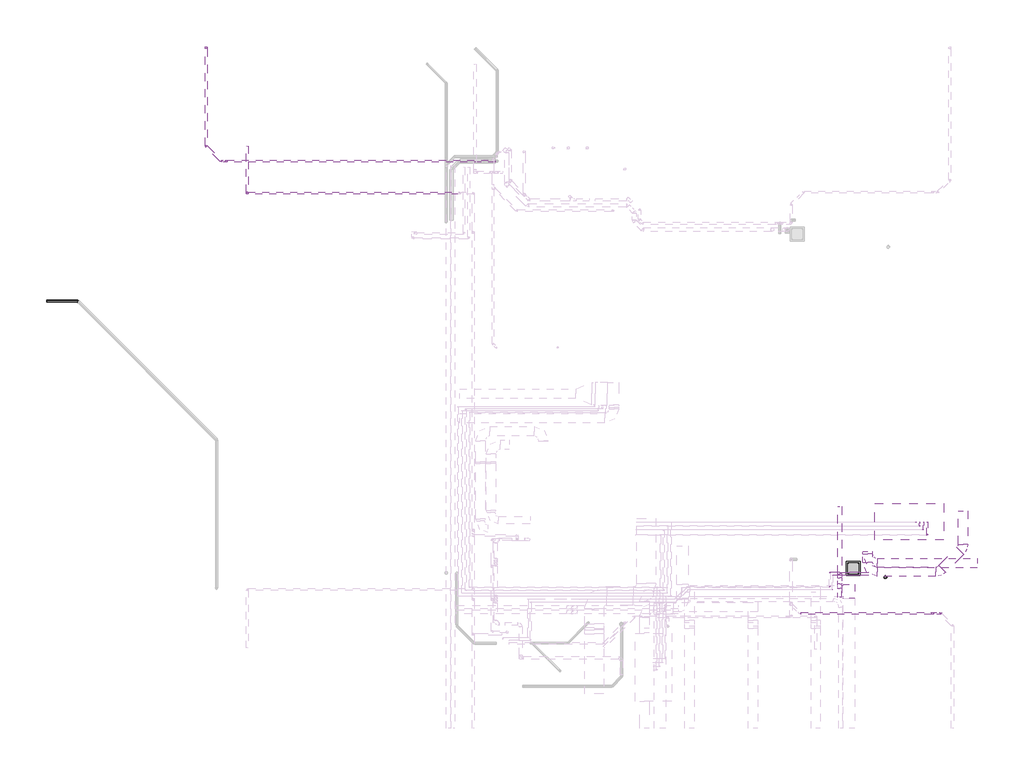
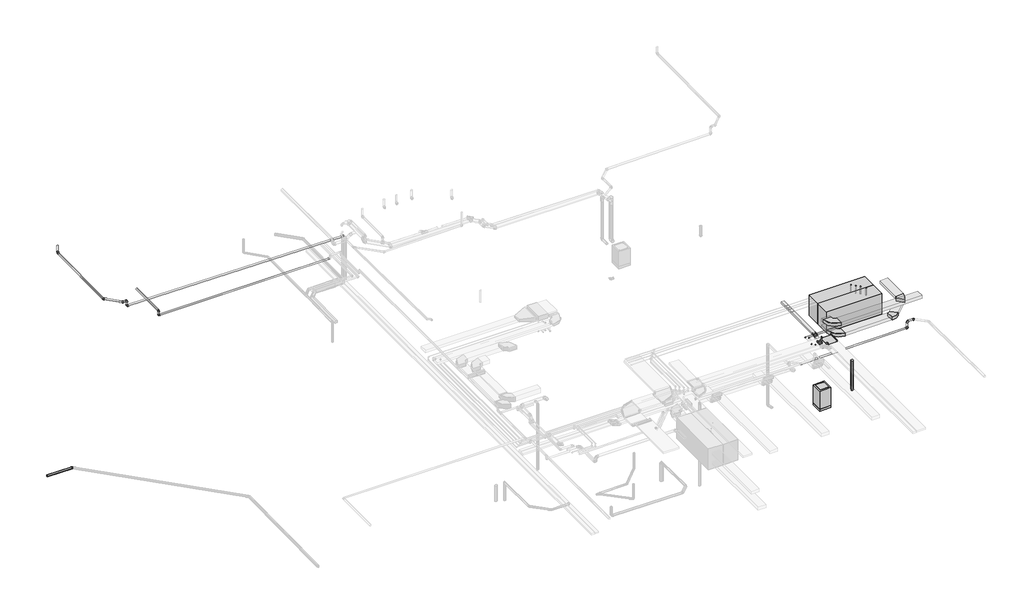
# One storey, part 7 of 10: 24 pipe fittings, 23 pipe segments, 6 duct segments, 4 duct fittings, 3 cable carrier fittings, 3 cable carrier segments, 2 proxies.
"""IFC4 building model written with IfcOpenShell, lengths in millimetres."""

from ifc_helpers import new_model, si_unit, point, frame, frame_2d, origin, place, context, project, spatial, polyline, circle_curve, trimmed, segment, composite_curve, outline, extrude, transform, mapped, element, save
from ifc_brep_helpers import plane_surface, cylinder_surface, advanced_brep
from components import proxy_50x50_437b038c, cl01_be410f6c, el_radio_300_mm_80008d8d, m_codo_vertical_exterior_de_canal_el_8fa2d767, m_codo_vertical_interior_de_canal_el_7eac9073, m_codo_rectangular_radio_apt_1_w_8ec2a39b, m_codo_rectangular_radio_apt_1_w_ead374a0, pipe_fitting_b994c117, pipe_fitting_0b7fd5a4, pipe_fitting_aab77541, pipe_fitting_0af9fee6, pipe_fitting_39727cd3, pipe_fitting_371413ad, pipe_fitting_87aeffad, pipe_fitting_c06ac706, pipe_fitting_9d402f5c, pipe_fitting_0698fb7b, pipe_fitting_d33bdcc6

model = new_model("IFC4")

# Units and contexts
model_context = context("Model", 3, world=origin())
ifc_project = project(units=[si_unit("LENGTHUNIT", "METRE", prefix="MILLI")], contexts=[model_context])

# Site, building, storey
site = spatial("IfcSite", under=ifc_project)
building = spatial("IfcBuilding", under=site)
storey = spatial("IfcBuildingStorey", under=building, Name="Nivell 00 P00_PB", Elevation=6330.0)

# Proxies
placement = place(None, origin())
proxy_50x50_shape = proxy_50x50_437b038c(model_context)
element("IfcBuildingElementProxy", 1, Name="ARC_MDL_ME_Arqueta : 50x50", ObjectType="ARC_MDL_ME_Arqueta : 50x50", at=placement, inside=storey, context=model_context, shape_type="MappedRepresentation", body=[
    mapped(proxy_50x50_shape, transform((25487.6337384, -13511.3935733, 6430.0), x_axis=(0.9999999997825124, -2.085605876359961e-05, 0.0), y_axis=(2.085605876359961e-05, 0.9999999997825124, 0.0), z_axis=(0.0, 0.0, 1.0))),
])
cl01_shape = cl01_be410f6c(model_context)
element("IfcBuildingElementProxy", 2, Name="ARC_MDL_ME_Climatitzador 2P Mx1 r22 : CL01", ObjectType="ARC_MDL_ME_Climatitzador 2P Mx1 r22 : CL01", at=placement, inside=storey, context=model_context, shape_type="MappedRepresentation", body=[
    mapped(cl01_shape, transform((28449.602221, -10573.3445368, 8830.0), x_axis=(0.9999999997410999, -2.2755226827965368e-05, 0.0), y_axis=(2.2755226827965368e-05, 0.9999999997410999, 0.0), z_axis=(0.0, 0.0, 1.0))),
])

# Cable carrier fittings
el_radio_300_mm_shape = el_radio_300_mm_80008d8d(model_context)
element("IfcCableCarrierFitting", 3, ObjectType="M_Te horizontal de canal : EL_Radio 300 mm", at=placement, inside=storey, context=model_context, shape_type="MappedRepresentation", body=[
    mapped(el_radio_300_mm_shape, transform((25270.9823979, -14725.0486096, 10510.0), x_axis=(0.0, -1.0, 0.0), y_axis=(1.0, 0.0, 0.0), z_axis=(0.0, 0.0, 1.0))),
])
m_codo_vertical_exterior_de_canal_el_shape = m_codo_vertical_exterior_de_canal_el_8fa2d767(model_context)
element("IfcCableCarrierFitting", 4, ObjectType="M_Codo vertical exterior de canal : EL", at=placement, inside=storey, context=model_context, shape_type="MappedRepresentation", body=[
    mapped(m_codo_vertical_exterior_de_canal_el_shape, transform((24788.2391522, -13918.9475407, 10510.0), x_axis=(0.0, -1.0, 0.0), y_axis=(0.0, 0.0, -1.0), z_axis=(1.0, 0.0, 0.0))),
])
m_codo_vertical_interior_de_canal_el_shape = m_codo_vertical_interior_de_canal_el_7eac9073(model_context)
element("IfcCableCarrierFitting", 5, ObjectType="M_Codo vertical interior de canal : EL", at=placement, inside=storey, context=model_context, shape_type="MappedRepresentation", body=[
    mapped(m_codo_vertical_interior_de_canal_el_shape, transform((24788.2391522, -14446.1836515, 10291.6116524), x_axis=(0.0, -0.9238795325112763, -0.38268343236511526), y_axis=(0.0, -0.38268343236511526, 0.9238795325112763), z_axis=(-1.0, 0.0, 0.0))),
])

# Cable carrier segments
element("IfcCableCarrierSegment", 6, ObjectType="EL", at=placement, inside=storey, context=model_context, shape_type="SweptSolid", body=[
    extrude(outline(polyline([(24688.2391522, -14570.9117433), (24888.2391522, -14570.9117433), (24888.2391522, -15048.963472), (24688.2391522, -15048.963472), (24688.2391522, -14570.9117433)])), frame((0.0, 0.0, 10241.6116524), z_axis=(0.0, 0.0, 1.0), x_axis=(1.0, 0.0, 0.0)), (0.0, 0.0, 1.0), 100.0),
])
element("IfcCableCarrierSegment", 7, ObjectType="EL", at=placement, inside=storey, context=model_context, shape_type="SweptSolid", body=[
    extrude(outline(polyline([(24688.2391522, -10248.963472), (24888.2391522, -10248.963472), (24888.2391522, -13794.2194489), (24688.2391522, -13794.2194489), (24688.2391522, -10248.963472)])), frame((0.0, 0.0, 10460.0), z_axis=(0.0, 0.0, 1.0), x_axis=(1.0, 0.0, 0.0)), (0.0, 0.0, 1.0), 100.0),
])
element("IfcCableCarrierSegment", 8, ObjectType="EL", at=placement, inside=storey, context=model_context, shape_type="SweptSolid", body=[
    extrude(outline(polyline([(0.0, -200.0), (0.0, 0.0), (321.2200703, 0.0), (321.2200703, -200.0), (0.0, -200.0)])), frame((24888.2391522, -14015.0471003, 10416.0746491), z_axis=(0.0, -0.38268343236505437, 0.9238795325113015), x_axis=(0.0, -0.9238795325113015, -0.38268343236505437)), (0.0, 0.0, 1.0), 100.0),
])

# Duct fittings
m_codo_rectangular_radio_apt_1_w_shape = m_codo_rectangular_radio_apt_1_w_8ec2a39b(model_context)
element("IfcDuctFitting", 9, ObjectType="M_Codo rectangular - Radio : APT_1 W", at=placement, inside=storey, context=model_context, shape_type="MappedRepresentation", body=[
    mapped(m_codo_rectangular_radio_apt_1_w_shape, transform((26249.5864779, -13688.8175244, 9830.0), x_axis=(0.0, -1.0, 0.0), y_axis=(1.0, 0.0, 0.0), z_axis=(0.0, 0.0, 1.0))),
])
m_codo_rectangular_radio_apt_1_w_2_shape = m_codo_rectangular_radio_apt_1_w_ead374a0(model_context)
element("IfcDuctFitting", 10, ObjectType="M_Codo rectangular - Radio : APT_1 W", at=placement, inside=storey, context=model_context, shape_type="MappedRepresentation", body=[
    mapped(m_codo_rectangular_radio_apt_1_w_2_shape, transform((30049.5864779, -13688.8175244, 9830.0), x_axis=(1.0, 0.0, 0.0), y_axis=(0.0, 1.0, 0.0), z_axis=(0.0, 0.0, 1.0))),
])
element("IfcDuctFitting", 11, ObjectType="M_Codo rectangular - Radio : APT_1 W", at=placement, inside=storey, context=model_context, shape_type="MappedRepresentation", body=[
    mapped(m_codo_rectangular_radio_apt_1_w_2_shape, transform((31292.4965295, -12445.9074729, 9830.0), x_axis=(0.707106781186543, 0.7071067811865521, 0.0), y_axis=(-0.7071067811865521, 0.707106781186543, 0.0), z_axis=(0.0, 0.0, 1.0))),
])
element("IfcDuctFitting", 12, ObjectType="M_Codo rectangular - Radio : EXT_1 W", at=placement, inside=storey, context=model_context, shape_type="MappedRepresentation", body=[
    mapped(m_codo_rectangular_radio_apt_1_w_shape, transform((26249.5864779, -13242.9667052, 10280.0), x_axis=(0.0, -1.0, 0.0), y_axis=(1.0, 0.0, 0.0), z_axis=(0.0, 0.0, 1.0))),
])

# Duct segments
element("IfcDuctSegment", 13, ObjectType="EXT_Fibra de vidre rígida", at=placement, inside=storey, context=model_context, shape_type="SweptSolid", body=[
    extrude(outline(polyline([(32049.5864779, -12992.9667052), (32049.5864779, -13492.9667052), (26749.5864779, -13492.9667052), (26749.5864779, -12992.9667052), (32049.5864779, -12992.9667052)])), frame((0.0, 0.0, 10180.0), z_axis=(0.0, 0.0, 1.0), x_axis=(1.0, 0.0, 0.0)), (0.0, 0.0, 1.0), 200.0),
])
element("IfcDuctSegment", 14, ObjectType="EXT_Fibra de vidre rígida", at=placement, inside=storey, context=model_context, shape_type="SweptSolid", body=[
    extrude(outline(polyline([(26499.5864779, -12742.9667052), (25999.5864779, -12742.9667052), (25999.5864779, -12622.9667052), (26499.5864779, -12622.9667052), (26499.5864779, -12742.9667052)])), frame((0.0, 0.0, 10180.0), z_axis=(0.0, 0.0, 1.0), x_axis=(1.0, 0.0, 0.0)), (0.0, 0.0, 1.0), 200.0),
])
element("IfcDuctSegment", 15, ObjectType="APT_Fibra de vidre rígida", at=placement, inside=storey, context=model_context, shape_type="SweptSolid", body=[
    extrude(outline(polyline([(30969.2732248, -12415.577387), (31322.8266154, -12769.1307776), (30372.8097826, -13719.1476103), (30019.256392, -13365.5942197), (30969.2732248, -12415.577387)])), frame((0.0, 0.0, 9730.0), z_axis=(0.0, 0.0, 1.0), x_axis=(1.0, 0.0, 0.0)), (0.0, 0.0, 1.0), 200.0),
])
element("IfcDuctSegment", 16, ObjectType="APT_Fibra de vidre rígida", at=placement, inside=storey, context=model_context, shape_type="SweptSolid", body=[
    extrude(outline(polyline([(26749.5864779, -13938.8175244), (26749.5864779, -13438.8175244), (29842.4796967, -13438.8175244), (29842.4796967, -13938.8175244), (26749.5864779, -13938.8175244)])), frame((0.0, 0.0, 9730.0), z_axis=(0.0, 0.0, 1.0), x_axis=(1.0, 0.0, 0.0)), (0.0, 0.0, 1.0), 200.0),
])
element("IfcDuctSegment", 17, ObjectType="APT_Fibra de vidre rígida", at=placement, inside=storey, context=model_context, shape_type="SweptSolid", body=[
    extrude(outline(polyline([(31042.4965295, -10469.19569), (31542.4965295, -10469.19569), (31542.4965295, -12238.8006917), (31042.4965295, -12238.8006917), (31042.4965295, -10469.19569)])), frame((0.0, 0.0, 9730.0), z_axis=(0.0, 0.0, 1.0), x_axis=(1.0, 0.0, 0.0)), (0.0, 0.0, 1.0), 200.0),
])
element("IfcDuctSegment", 18, ObjectType="APT_Fibra de vidre rígida", at=placement, inside=storey, context=model_context, shape_type="SweptSolid", body=[
    extrude(outline(polyline([(26499.5864779, -13188.8175244), (25999.5864779, -13188.8175244), (25999.5864779, -12622.9667052), (26499.5864779, -12622.9667052), (26499.5864779, -13188.8175244)])), frame((0.0, 0.0, 9730.0), z_axis=(0.0, 0.0, 1.0), x_axis=(1.0, 0.0, 0.0)), (0.0, 0.0, 1.0), 200.0),
])

# Pipe fittings
pipe_fitting_shape = pipe_fitting_b994c117(model_context)
element("IfcPipeFitting", 19, ObjectType="M_Codo - Genérico : Estándar", at=placement, inside=storey, context=model_context, shape_type="MappedRepresentation", body=[
    mapped(pipe_fitting_shape, transform((-15425.9750078, 601.8645148, 6533.1615426), x_axis=(-0.7070714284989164, 0.7070714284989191, 0.00999950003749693), y_axis=(-0.7070714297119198, -0.7071300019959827, 0.004141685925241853), z_axis=(0.009999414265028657, -0.004141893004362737, 0.9999414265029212))),
])
pipe_fitting_2_shape = pipe_fitting_0b7fd5a4(model_context)
element("IfcPipeFitting", 20, ObjectType="M_Codo - Genérico : Estándar", at=placement, inside=storey, context=model_context, shape_type="MappedRepresentation", body=[
    mapped(pipe_fitting_2_shape, transform((-8658.5469235, 8785.39608, 10896.6190692), x_axis=(-4.171003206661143e-05, -0.9999500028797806, -0.009999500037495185), y_axis=(0.999991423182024, -2.9490050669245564e-07, -0.004141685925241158), z_axis=(0.004141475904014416, -0.009999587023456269, 0.9999414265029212))),
])
pipe_fitting_3_shape = pipe_fitting_aab77541(model_context)
element("IfcPipeFitting", 21, ObjectType="M_Codo - Genérico : Estándar", at=placement, inside=storey, context=model_context, shape_type="MappedRepresentation", body=[
    mapped(pipe_fitting_3_shape, transform((29678.9717452, -15898.9743164, 10439.6925563), x_axis=(0.9999500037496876, 0.0, 0.00999950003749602), y_axis=(-0.00999950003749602, 0.0, 0.9999500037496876), z_axis=(0.0, -1.0, 0.0))),
])
element("IfcPipeFitting", 22, ObjectType="M_Codo - Genérico : Estándar", at=placement, inside=storey, context=model_context, shape_type="MappedRepresentation", body=[
    mapped(pipe_fitting_3_shape, transform((-8658.5458362, 13987.0069873, 10948.6351783), x_axis=(0.0, 0.0, -1.0), y_axis=(0.0, -1.0, 0.0), z_axis=(-1.0, 0.0, 0.0))),
])
element("IfcPipeFitting", 23, ObjectType="M_Codo - Genérico : Estándar", at=placement, inside=storey, context=model_context, shape_type="MappedRepresentation", body=[
    mapped(pipe_fitting_3_shape, transform((-7596.1977889, 7990.2242431, 10530.0), x_axis=(-0.9999500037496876, 0.0, 0.009999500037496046), y_axis=(0.009999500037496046, 0.0, 0.9999500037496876), z_axis=(0.0, 1.0, 0.0))),
])
pipe_fitting_4_shape = pipe_fitting_0af9fee6(model_context)
element("IfcPipeFitting", 24, ObjectType="M_Codo - Genérico : Estándar", at=placement, inside=storey, context=model_context, shape_type="MappedRepresentation", body=[
    mapped(pipe_fitting_4_shape, transform((30096.759082, -15898.9836045, 10887.5027015), x_axis=(-0.7070713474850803, 0.7070713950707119, -0.010007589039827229), y_axis=(-0.7070715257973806, -0.7071299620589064, -0.0041320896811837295), z_axis=(-0.009998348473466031, 0.004154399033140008, 0.9999413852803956))),
])
pipe_fitting_5_shape = pipe_fitting_39727cd3(model_context)
element("IfcPipeFitting", 25, ObjectType="M_Codo - Genérico : Estándar", at=placement, inside=storey, context=model_context, shape_type="MappedRepresentation", body=[
    mapped(pipe_fitting_5_shape, transform((29678.9717452, -15898.9836045, 10883.3252733), x_axis=(-0.9999500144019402, 0.0, -0.009998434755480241), y_axis=(0.009998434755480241, 0.0, -0.9999500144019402), z_axis=(0.0, -1.0, 0.0))),
])
pipe_fitting_6_shape = pipe_fitting_371413ad(model_context)
element("IfcPipeFitting", 26, ObjectType="M_Codo - Genérico : Estándar", at=placement, inside=storey, context=model_context, shape_type="MappedRepresentation", body=[
    mapped(pipe_fitting_6_shape, transform((29199.5591841, -11473.4386952, 9830.0), x_axis=(0.0, -1.0, 0.0), y_axis=(0.0, 0.0, 1.0), z_axis=(-1.0, 0.0, 0.0))),
])
element("IfcPipeFitting", 27, ObjectType="M_Codo - Genérico : Estándar", at=placement, inside=storey, context=model_context, shape_type="MappedRepresentation", body=[
    mapped(pipe_fitting_6_shape, transform((29199.5591841, -11473.4386952, 10810.0), x_axis=(0.0, 0.0, 1.0), y_axis=(-0.9999999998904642, 1.4801067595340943e-05, 0.0), z_axis=(-1.4801067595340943e-05, -0.9999999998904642, 0.0))),
])
element("IfcPipeFitting", 28, ObjectType="M_Codo - Genérico : Estándar", at=placement, inside=storey, context=model_context, shape_type="MappedRepresentation", body=[
    mapped(pipe_fitting_6_shape, transform((29399.5591841, -11743.4412974, 9830.0), x_axis=(0.0, -1.0, 0.0), y_axis=(0.0, 0.0, 1.0), z_axis=(-1.0, 0.0, 0.0))),
])
element("IfcPipeFitting", 29, ObjectType="M_Codo - Genérico : Estándar", at=placement, inside=storey, context=model_context, shape_type="MappedRepresentation", body=[
    mapped(pipe_fitting_6_shape, transform((29399.5591841, -11743.4412974, 10810.0), x_axis=(0.0, 0.0, 1.0), y_axis=(-0.9999999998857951, 1.5113234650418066e-05, 0.0), z_axis=(-1.5113234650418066e-05, -0.9999999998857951, 0.0))),
])
pipe_fitting_7_shape = pipe_fitting_87aeffad(model_context)
element("IfcPipeFitting", 30, ObjectType="M_Codo - Genérico : Estándar", at=placement, inside=storey, context=model_context, shape_type="MappedRepresentation", body=[
    mapped(pipe_fitting_7_shape, transform((-6487.9749637, 6292.0391766, 10519.2), x_axis=(-1.0, 0.0, 0.0), y_axis=(0.0, 0.0, 1.0), z_axis=(0.0, 1.0, 0.0))),
])
element("IfcPipeFitting", 31, ObjectType="M_Codo - Genérico : Estándar", at=placement, inside=storey, context=model_context, shape_type="MappedRepresentation", body=[
    mapped(pipe_fitting_7_shape, transform((-6487.9749637, 6292.0391766, 10829.2), x_axis=(0.0, 0.0, 1.0), y_axis=(2.426445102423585e-05, 0.9999999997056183, 0.0), z_axis=(-0.9999999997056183, 2.426445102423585e-05, 0.0))),
])
pipe_fitting_8_shape = pipe_fitting_c06ac706(model_context)
element("IfcPipeFitting", 32, ObjectType="M_Codo - Genérico : Estándar", at=placement, inside=storey, context=model_context, shape_type="MappedRepresentation", body=[
    mapped(pipe_fitting_8_shape, transform((24407.0777075, -14644.0617869, 10363.0088186), x_axis=(1.0, -1.1622379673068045e-08, 0.0), y_axis=(1.1622379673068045e-08, 1.0, 0.0), z_axis=(0.0, 0.0, 1.0))),
])
pipe_fitting_9_shape = pipe_fitting_9d402f5c(model_context)
element("IfcPipeFitting", 33, ObjectType="M_Codo - Genérico : Estándar", at=placement, inside=storey, context=model_context, shape_type="MappedRepresentation", body=[
    mapped(pipe_fitting_9_shape, transform((-7863.4509033, 7990.2337267, 10885.3742444), x_axis=(0.7070419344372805, -0.7071009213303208, -0.009999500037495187), y_axis=(0.7071009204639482, 0.7071005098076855, -0.004142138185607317), z_axis=(0.009999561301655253, -0.004141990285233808, 0.9999414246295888))),
])
pipe_fitting_10_shape = pipe_fitting_0698fb7b(model_context)
element("IfcPipeFitting", 34, ObjectType="M_Codo - Genérico : Estándar", at=placement, inside=storey, context=model_context, shape_type="MappedRepresentation", body=[
    mapped(pipe_fitting_10_shape, transform((-7596.1977889, 7990.2242431, 10882.7016355), x_axis=(0.0, 0.0, 1.0), y_axis=(-0.9999999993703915, 3.548544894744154e-05, 0.0), z_axis=(-3.548544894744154e-05, -0.9999999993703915, 0.0))),
])
pipe_fitting_11_shape = pipe_fitting_d33bdcc6(model_context)
element("IfcPipeFitting", 35, ObjectType="M_Codo - Genérico : Estándar", at=placement, inside=storey, context=model_context, shape_type="MappedRepresentation", body=[
    mapped(pipe_fitting_11_shape, transform((27181.4751184, -13986.7409346, 5849.9999942), x_axis=(8.2075332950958e-06, -1.4104387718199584e-05, -0.9999999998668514), y_axis=(0.7071243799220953, 0.7070891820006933, -4.1693130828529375e-06), z_axis=(0.7070891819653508, -0.7071243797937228, 1.5777014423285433e-05))),
])
element("IfcPipeFitting", 36, ObjectType="M_Codo - Genérico : Estándar", at=placement, inside=storey, context=model_context, shape_type="MappedRepresentation", body=[
    mapped(pipe_fitting_8_shape, transform((28799.5591841, -11075.078669, 10810.0), x_axis=(0.9999999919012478, -0.00012726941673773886, 0.0), y_axis=(0.0, 0.0, -1.0), z_axis=(0.00012726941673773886, 0.9999999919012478, 0.0))),
])
element("IfcPipeFitting", 37, ObjectType="M_Codo - Genérico : Estándar", at=placement, inside=storey, context=model_context, shape_type="MappedRepresentation", body=[
    mapped(pipe_fitting_8_shape, transform((28799.5591841, -11075.078669, 9830.0), x_axis=(0.0, 0.0, -1.0), y_axis=(0.0, 1.0, 0.0), z_axis=(1.0, 0.0, 0.0))),
])
element("IfcPipeFitting", 38, ObjectType="M_Codo - Genérico : Estándar", at=placement, inside=storey, context=model_context, shape_type="MappedRepresentation", body=[
    mapped(pipe_fitting_8_shape, transform((28999.5591841, -11275.8645416, 10810.0), x_axis=(0.9999999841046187, -0.00017829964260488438, 0.0), y_axis=(0.0, 0.0, -1.0), z_axis=(0.00017829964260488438, 0.9999999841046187, 0.0))),
])
element("IfcPipeFitting", 39, ObjectType="M_Codo - Genérico : Estándar", at=placement, inside=storey, context=model_context, shape_type="MappedRepresentation", body=[
    mapped(pipe_fitting_8_shape, transform((28999.5591841, -11275.8645416, 9830.0), x_axis=(0.0, 0.0, -1.0), y_axis=(0.0, 1.0, 0.0), z_axis=(1.0, 0.0, 0.0))),
])
element("IfcPipeFitting", 40, ObjectType="M_Codo - Genérico : Estándar", at=placement, inside=storey, context=model_context, shape_type="MappedRepresentation", body=[
    mapped(pipe_fitting_8_shape, transform((24257.0777077, -13724.0617869, 10363.0088186), x_axis=(-1.0, 0.0, 0.0), y_axis=(0.0, -1.0, 0.0), z_axis=(0.0, 0.0, 1.0))),
])
element("IfcPipeFitting", 41, ObjectType="M_Codo - Genérico : Estándar", at=placement, inside=storey, context=model_context, shape_type="MappedRepresentation", body=[
    mapped(pipe_fitting_8_shape, transform((24407.0777077, -13874.0617869, 10363.0088186), x_axis=(-1.0, 0.0, 0.0), y_axis=(0.0, -1.0, 0.0), z_axis=(0.0, 0.0, 1.0))),
])
element("IfcPipeFitting", 42, ObjectType="M_Codo - Genérico : Estándar", at=placement, inside=storey, context=model_context, shape_type="MappedRepresentation", body=[
    mapped(pipe_fitting_8_shape, transform((24257.0777077, -14494.0617869, 10363.0088186), x_axis=(1.0, 0.0, 0.0), y_axis=(0.0, 1.0, 0.0), z_axis=(0.0, 0.0, 1.0))),
])

# Pipe segments
element("IfcPipeSegment", 43, ObjectType="AN_CI", at=placement, inside=storey, context=model_context, shape_type="SweptSolid", body=[
    extrude(outline(composite_curve([segment(trimmed(circle_curve(frame_2d((0.0, 50.8)), 50.8), [point((0.0, 101.6))], [point((50.8, 50.8))], False, "CARTESIAN"), True, "CONTINUOUS"), segment(trimmed(circle_curve(frame_2d((0.0, 50.8)), 50.8), [point((50.8, 50.8))], [point((0.0, 0.0))], False, "CARTESIAN"), True, "CONTINUOUS"), segment(trimmed(circle_curve(frame_2d((0.0, 50.8)), 50.8), [point((0.0, 0.0))], [point((-50.8, 50.8))], False, "CARTESIAN"), True, "CONTINUOUS"), segment(trimmed(circle_curve(frame_2d((0.0, 50.8)), 50.8), [point((-50.8, 50.8))], [point((0.0, 101.6))], False, "CARTESIAN"), True, "CONTINUOUS")], self_intersect=False)), frame((-6538.7736925, 6344.4279092, 10829.2), z_axis=(2.4264451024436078e-05, 0.9999999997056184, 0.0), x_axis=(0.0, 0.0, 1.0)), (0.0, 0.0, 1.0), 2447.5699943),
])
element("IfcPipeSegment", 44, ObjectType="AN_CI", at=placement, inside=storey, context=model_context, shape_type="SweptSolid", body=[
    extrude(outline(composite_curve([segment(trimmed(circle_curve(frame_2d((6292.0391766, 10519.2)), 50.8), [point((6241.2391766, 10519.2))], [point((6292.0391766, 10570.0))], False, "CARTESIAN"), True, "CONTINUOUS"), segment(trimmed(circle_curve(frame_2d((6292.0391766, 10519.2)), 50.8), [point((6292.0391766, 10570.0))], [point((6342.8391766, 10519.2))], False, "CARTESIAN"), True, "CONTINUOUS"), segment(trimmed(circle_curve(frame_2d((6292.0391766, 10519.2)), 50.8), [point((6342.8391766, 10519.2))], [point((6292.0391766, 10468.4))], False, "CARTESIAN"), True, "CONTINUOUS"), segment(trimmed(circle_curve(frame_2d((6292.0391766, 10519.2)), 50.8), [point((6292.0391766, 10468.4))], [point((6241.2391766, 10519.2))], False, "CARTESIAN"), True, "CONTINUOUS")], self_intersect=False)), frame((-6435.5874637, 0.0, 0.0), z_axis=(1.0, 0.0, 0.0), x_axis=(0.0, 1.0, 0.0)), (0.0, 0.0, 1.0), 11098.2450201),
])
element("IfcPipeSegment", 45, ObjectType="PVC_Baixant", at=placement, inside=storey, context=model_context, shape_type="SweptSolid", body=[
    extrude(outline(composite_curve([segment(trimmed(circle_curve(frame_2d((0.0, -55.0)), 55.0), [point((0.0, 0.0))], [point((55.0, -55.0))], False, "CARTESIAN"), True, "CONTINUOUS"), segment(trimmed(circle_curve(frame_2d((0.0, -55.0)), 55.0), [point((55.0, -55.0))], [point((0.0, -110.0))], False, "CARTESIAN"), True, "CONTINUOUS"), segment(trimmed(circle_curve(frame_2d((0.0, -55.0)), 55.0), [point((0.0, -110.0))], [point((-55.0, -55.0))], False, "CARTESIAN"), True, "CONTINUOUS"), segment(trimmed(circle_curve(frame_2d((0.0, -55.0)), 55.0), [point((-55.0, -55.0))], [point((0.0, 0.0))], False, "CARTESIAN"), True, "CONTINUOUS")], self_intersect=False)), frame((29741.2799687, -15843.9836045, 10883.9482891), z_axis=(0.9999500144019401, 0.0, 0.009998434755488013), x_axis=(0.009998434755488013, 0.0, -0.9999500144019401)), (0.0, 0.0, 1.0), 329.4288437),
])
element("IfcPipeSegment", 46, ObjectType="PVC_Baixant", at=placement, inside=storey, context=model_context, shape_type="SweptSolid", body=[
    extrude(outline(composite_curve([segment(trimmed(circle_curve(frame_2d((0.0, 55.0)), 55.0), [point((-55.0, 55.0))], [point((0.0, 110.0))], False, "CARTESIAN"), True, "CONTINUOUS"), segment(trimmed(circle_curve(frame_2d((0.0, 55.0)), 55.0), [point((0.0, 110.0))], [point((55.0, 55.0))], False, "CARTESIAN"), True, "CONTINUOUS"), segment(trimmed(circle_curve(frame_2d((0.0, 55.0)), 55.0), [point((55.0, 55.0))], [point((0.0, 0.0))], False, "CARTESIAN"), True, "CONTINUOUS"), segment(trimmed(circle_curve(frame_2d((0.0, 55.0)), 55.0), [point((0.0, 0.0))], [point((-55.0, 55.0))], False, "CARTESIAN"), True, "CONTINUOUS")], self_intersect=False)), frame((29678.9717452, -15953.9743164, 10502.0022268), z_axis=(0.0, -2.9115239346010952e-05, 0.9999999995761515), x_axis=(1.0, 0.0, 0.0)), (0.0, 0.0, 1.0), 319.0101),
])
element("IfcPipeSegment", 47, ObjectType="PPR_CLI_Aquatherm Blue Pipe", at=placement, inside=storey, context=model_context, shape_type="SweptSolid", body=[
    extrude(outline(composite_curve([segment(trimmed(circle_curve(frame_2d((9830.0, 28999.5591841)), 12.5), [point((9830.0, 29012.0591841))], [point((9842.5, 28999.5591841))], False, "CARTESIAN"), True, "CONTINUOUS"), segment(trimmed(circle_curve(frame_2d((9830.0, 28999.5591841)), 12.5), [point((9842.5, 28999.5591841))], [point((9830.0, 28987.0591841))], False, "CARTESIAN"), True, "CONTINUOUS"), segment(trimmed(circle_curve(frame_2d((9830.0, 28999.5591841)), 12.5), [point((9830.0, 28987.0591841))], [point((9817.5, 28999.5591841))], False, "CARTESIAN"), True, "CONTINUOUS"), segment(trimmed(circle_curve(frame_2d((9830.0, 28999.5591841)), 12.5), [point((9817.5, 28999.5591841))], [point((9830.0, 29012.0591841))], False, "CARTESIAN"), True, "CONTINUOUS")], self_intersect=False)), frame((0.0, -11255.2270416, 0.0), z_axis=(0.0, 1.0, 0.0), x_axis=(0.0, 0.0, 1.0)), (0.0, 0.0, 1.0), 203.0512489),
])
element("IfcPipeSegment", 48, ObjectType="PPR_CLI_Aquatherm Blue Pipe", at=placement, inside=storey, context=model_context, shape_type="SweptSolid", body=[
    extrude(outline(composite_curve([segment(trimmed(circle_curve(frame_2d((9830.0, 29199.5591841)), 20.0), [point((9830.0, 29219.5591841))], [point((9850.0, 29199.5591841))], False, "CARTESIAN"), True, "CONTINUOUS"), segment(trimmed(circle_curve(frame_2d((9830.0, 29199.5591841)), 20.0), [point((9850.0, 29199.5591841))], [point((9830.0, 29179.5591841))], False, "CARTESIAN"), True, "CONTINUOUS"), segment(trimmed(circle_curve(frame_2d((9830.0, 29199.5591841)), 20.0), [point((9830.0, 29179.5591841))], [point((9810.0, 29199.5591841))], False, "CARTESIAN"), True, "CONTINUOUS"), segment(trimmed(circle_curve(frame_2d((9830.0, 29199.5591841)), 20.0), [point((9810.0, 29199.5591841))], [point((9830.0, 29219.5591841))], False, "CARTESIAN"), True, "CONTINUOUS")], self_intersect=False)), frame((0.0, -11446.4511952, 0.0), z_axis=(0.0, 1.0, 0.0), x_axis=(0.0, 0.0, 1.0)), (0.0, 0.0, 1.0), 394.2754025),
])
element("IfcPipeSegment", 49, ObjectType="PPR_CLI_Aquatherm Blue Pipe", at=placement, inside=storey, context=model_context, shape_type="SweptSolid", body=[
    extrude(outline(composite_curve([segment(trimmed(circle_curve(frame_2d((9830.0, 29399.5437105)), 20.0), [point((9830.0, 29419.5437105))], [point((9850.0, 29399.5437105))], False, "CARTESIAN"), True, "CONTINUOUS"), segment(trimmed(circle_curve(frame_2d((9830.0, 29399.5437105)), 20.0), [point((9850.0, 29399.5437105))], [point((9830.0, 29379.5437105))], False, "CARTESIAN"), True, "CONTINUOUS"), segment(trimmed(circle_curve(frame_2d((9830.0, 29399.5437105)), 20.0), [point((9830.0, 29379.5437105))], [point((9810.0, 29399.5437105))], False, "CARTESIAN"), True, "CONTINUOUS"), segment(trimmed(circle_curve(frame_2d((9830.0, 29399.5437105)), 20.0), [point((9810.0, 29399.5437105))], [point((9830.0, 29419.5437105))], False, "CARTESIAN"), True, "CONTINUOUS")], self_intersect=False)), frame((0.0, -11716.4533236, 0.0), z_axis=(0.0, 1.0, 0.0), x_axis=(0.0, 0.0, 1.0)), (0.0, 0.0, 1.0), 664.277531),
])
element("IfcPipeSegment", 50, ObjectType="PPR_CLI_Aquatherm Blue Pipe", at=placement, inside=storey, context=model_context, shape_type="SweptSolid", body=[
    extrude(outline(composite_curve([segment(trimmed(circle_curve(frame_2d((28799.5591841, -11075.078669)), 12.5), [point((28812.0591841, -11075.078669))], [point((28799.5591841, -11087.578669))], False, "CARTESIAN"), True, "CONTINUOUS"), segment(trimmed(circle_curve(frame_2d((28799.5591841, -11075.078669)), 12.5), [point((28799.5591841, -11087.578669))], [point((28787.0591841, -11075.078669))], False, "CARTESIAN"), True, "CONTINUOUS"), segment(trimmed(circle_curve(frame_2d((28799.5591841, -11075.078669)), 12.5), [point((28787.0591841, -11075.078669))], [point((28799.5591841, -11062.578669))], False, "CARTESIAN"), True, "CONTINUOUS"), segment(trimmed(circle_curve(frame_2d((28799.5591841, -11075.078669)), 12.5), [point((28799.5591841, -11062.578669))], [point((28812.0591841, -11075.078669))], False, "CARTESIAN"), True, "CONTINUOUS")], self_intersect=False)), frame((0.0, 0.0, 9850.6375), z_axis=(0.0, 0.0, 1.0), x_axis=(1.0, 0.0, 0.0)), (0.0, 0.0, 1.0), 938.725),
])
element("IfcPipeSegment", 51, ObjectType="PPR_CLI_Aquatherm Blue Pipe", at=placement, inside=storey, context=model_context, shape_type="SweptSolid", body=[
    extrude(outline(composite_curve([segment(trimmed(circle_curve(frame_2d((28999.5591841, -11275.8645416)), 12.5), [point((29012.0591841, -11275.8645416))], [point((28999.5591841, -11288.3645416))], False, "CARTESIAN"), True, "CONTINUOUS"), segment(trimmed(circle_curve(frame_2d((28999.5591841, -11275.8645416)), 12.5), [point((28999.5591841, -11288.3645416))], [point((28987.0591841, -11275.8645416))], False, "CARTESIAN"), True, "CONTINUOUS"), segment(trimmed(circle_curve(frame_2d((28999.5591841, -11275.8645416)), 12.5), [point((28987.0591841, -11275.8645416))], [point((28999.5591841, -11263.3645416))], False, "CARTESIAN"), True, "CONTINUOUS"), segment(trimmed(circle_curve(frame_2d((28999.5591841, -11275.8645416)), 12.5), [point((28999.5591841, -11263.3645416))], [point((29012.0591841, -11275.8645416))], False, "CARTESIAN"), True, "CONTINUOUS")], self_intersect=False)), frame((0.0, 0.0, 9850.6375), z_axis=(0.0, 0.0, 1.0), x_axis=(1.0, 0.0, 0.0)), (0.0, 0.0, 1.0), 938.725),
])
element("IfcPipeSegment", 52, ObjectType="PPR_CLI_Aquatherm Blue Pipe", at=placement, inside=storey, context=model_context, shape_type="SweptSolid", body=[
    extrude(outline(composite_curve([segment(trimmed(circle_curve(frame_2d((29199.5591841, -11473.4386952)), 20.0), [point((29179.5591841, -11473.4386952))], [point((29199.5591841, -11453.4386952))], False, "CARTESIAN"), True, "CONTINUOUS"), segment(trimmed(circle_curve(frame_2d((29199.5591841, -11473.4386952)), 20.0), [point((29199.5591841, -11453.4386952))], [point((29219.5591841, -11473.4386952))], False, "CARTESIAN"), True, "CONTINUOUS"), segment(trimmed(circle_curve(frame_2d((29199.5591841, -11473.4386952)), 20.0), [point((29219.5591841, -11473.4386952))], [point((29199.5591841, -11493.4386952))], False, "CARTESIAN"), True, "CONTINUOUS"), segment(trimmed(circle_curve(frame_2d((29199.5591841, -11473.4386952)), 20.0), [point((29199.5591841, -11493.4386952))], [point((29179.5591841, -11473.4386952))], False, "CARTESIAN"), True, "CONTINUOUS")], self_intersect=False)), frame((0.0, 0.0, 9856.9875), z_axis=(0.0, 0.0, 1.0), x_axis=(1.0, 0.0, 0.0)), (0.0, 0.0, 1.0), 926.025),
])
element("IfcPipeSegment", 53, ObjectType="PPR_CLI_Aquatherm Blue Pipe", at=placement, inside=storey, context=model_context, shape_type="SweptSolid", body=[
    extrude(outline(composite_curve([segment(trimmed(circle_curve(frame_2d((29399.5591841, -11743.4412974)), 20.0), [point((29379.5591841, -11743.4412974))], [point((29399.5591841, -11723.4412974))], False, "CARTESIAN"), True, "CONTINUOUS"), segment(trimmed(circle_curve(frame_2d((29399.5591841, -11743.4412974)), 20.0), [point((29399.5591841, -11723.4412974))], [point((29419.5591841, -11743.4412974))], False, "CARTESIAN"), True, "CONTINUOUS"), segment(trimmed(circle_curve(frame_2d((29399.5591841, -11743.4412974)), 20.0), [point((29419.5591841, -11743.4412974))], [point((29399.5591841, -11763.4412974))], False, "CARTESIAN"), True, "CONTINUOUS"), segment(trimmed(circle_curve(frame_2d((29399.5591841, -11743.4412974)), 20.0), [point((29399.5591841, -11763.4412974))], [point((29379.5591841, -11743.4412974))], False, "CARTESIAN"), True, "CONTINUOUS")], self_intersect=False)), frame((0.0, 0.0, 9856.9875), z_axis=(0.0, 0.0, 1.0), x_axis=(1.0, 0.0, 0.0)), (0.0, 0.0, 1.0), 926.025),
])
element("IfcPipeSegment", 54, ObjectType="AN_CI", at=placement, inside=storey, context=model_context, shape_type="SweptSolid", body=[
    extrude(outline(composite_curve([segment(trimmed(circle_curve(frame_2d((-13724.0617869, 10363.0088186)), 16.85), [point((-13740.9117869, 10363.0088186))], [point((-13724.0617869, 10379.8588186))], False, "CARTESIAN"), True, "CONTINUOUS"), segment(trimmed(circle_curve(frame_2d((-13724.0617869, 10363.0088186)), 16.85), [point((-13724.0617869, 10379.8588186))], [point((-13707.2117869, 10363.0088186))], False, "CARTESIAN"), True, "CONTINUOUS"), segment(trimmed(circle_curve(frame_2d((-13724.0617869, 10363.0088186)), 16.85), [point((-13707.2117869, 10363.0088186))], [point((-13724.0617869, 10346.1588186))], False, "CARTESIAN"), True, "CONTINUOUS"), segment(trimmed(circle_curve(frame_2d((-13724.0617869, 10363.0088186)), 16.85), [point((-13724.0617869, 10346.1588186))], [point((-13740.9117869, 10363.0088186))], False, "CARTESIAN"), True, "CONTINUOUS")], self_intersect=False)), frame((24277.7152077, 0.0, 0.0), z_axis=(1.0, 0.0, 0.0), x_axis=(0.0, 1.0, 0.0)), (0.0, 0.0, 1.0), 2042.6649136),
])
element("IfcPipeSegment", 55, ObjectType="AN_CI", at=placement, inside=storey, context=model_context, shape_type="SweptSolid", body=[
    extrude(outline(composite_curve([segment(trimmed(circle_curve(frame_2d((-13874.0617869, 10363.0088186)), 16.85), [point((-13890.9117869, 10363.0088186))], [point((-13874.0617869, 10379.8588186))], False, "CARTESIAN"), True, "CONTINUOUS"), segment(trimmed(circle_curve(frame_2d((-13874.0617869, 10363.0088186)), 16.85), [point((-13874.0617869, 10379.8588186))], [point((-13857.2117869, 10363.0088186))], False, "CARTESIAN"), True, "CONTINUOUS"), segment(trimmed(circle_curve(frame_2d((-13874.0617869, 10363.0088186)), 16.85), [point((-13857.2117869, 10363.0088186))], [point((-13874.0617869, 10346.1588186))], False, "CARTESIAN"), True, "CONTINUOUS"), segment(trimmed(circle_curve(frame_2d((-13874.0617869, 10363.0088186)), 16.85), [point((-13874.0617869, 10346.1588186))], [point((-13890.9117869, 10363.0088186))], False, "CARTESIAN"), True, "CONTINUOUS")], self_intersect=False)), frame((24427.7152077, 0.0, 0.0), z_axis=(1.0, 0.0, 0.0), x_axis=(0.0, 1.0, 0.0)), (0.0, 0.0, 1.0), 1892.6649136),
])
element("IfcPipeSegment", 56, ObjectType="PVC_Baixant", at=placement, inside=storey, context=model_context, shape_type="SweptSolid", body=[
    extrude(outline(composite_curve([segment(trimmed(circle_curve(frame_2d((0.0, 62.5)), 62.5), [point((-62.5, 62.5))], [point((0.0, 125.0))], False, "CARTESIAN"), True, "CONTINUOUS"), segment(trimmed(circle_curve(frame_2d((0.0, 62.5)), 62.5), [point((0.0, 125.0))], [point((62.5, 62.5))], False, "CARTESIAN"), True, "CONTINUOUS"), segment(trimmed(circle_curve(frame_2d((0.0, 62.5)), 62.5), [point((62.5, 62.5))], [point((0.0, 0.0))], False, "CARTESIAN"), True, "CONTINUOUS"), segment(trimmed(circle_curve(frame_2d((0.0, 62.5)), 62.5), [point((0.0, 0.0))], [point((-62.5, 62.5))], False, "CARTESIAN"), True, "CONTINUOUS")], self_intersect=False)), frame((27181.4745379, -14049.239937, 5920.7275783), z_axis=(-8.207533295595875e-06, 1.4104387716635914e-05, 0.9999999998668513), x_axis=(0.9999999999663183, 1.1576162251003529e-10, 8.207533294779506e-06)), (0.0, 0.0, 1.0), 1996.5735345),
])
element("IfcPipeSegment", 57, ObjectType="PVC_Baixant", at=placement, inside=storey, context=model_context, shape_type="SweptSolid", body=[
    extrude(outline(composite_curve([segment(trimmed(circle_curve(frame_2d((0.0, 55.0)), 55.0), [point((-55.0, 54.9999996))], [point((-4e-07, 110.0))], False, "CARTESIAN"), True, "CONTINUOUS"), segment(trimmed(circle_curve(frame_2d((0.0, 55.0)), 55.0), [point((-4e-07, 110.0))], [point((55.0000001, 55.0000004))], False, "CARTESIAN"), True, "CONTINUOUS"), segment(trimmed(circle_curve(frame_2d((0.0, 55.0)), 55.0), [point((55.0000001, 55.0000004))], [point((4e-07, 0.0))], False, "CARTESIAN"), True, "CONTINUOUS"), segment(trimmed(circle_curve(frame_2d((0.0, 55.0)), 55.0), [point((4e-07, 0.0))], [point((-55.0, 54.9999996))], False, "CARTESIAN"), True, "CONTINUOUS")], self_intersect=False)), frame((-8658.5458362, 13932.0069876, 11010.9406917), z_axis=(-7.582526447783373e-05, -0.00010469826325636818, 0.9999999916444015), x_axis=(0.9999999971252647, -7.938773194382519e-09, 7.582526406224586e-05)), (0.0, 0.0, 1.0), 419.045967),
])
element("IfcPipeSegment", 58, ObjectType="PVC_Baixant", at=placement, inside=storey, context=model_context, shape_type="SweptSolid", body=[
    extrude(outline(composite_curve([segment(trimmed(circle_curve(frame_2d((0.0, -55.0)), 55.0), [point((-55.0, -55.0))], [point((0.0, 0.0))], False, "CARTESIAN"), True, "CONTINUOUS"), segment(trimmed(circle_curve(frame_2d((0.0, -55.0)), 55.0), [point((0.0, 0.0))], [point((55.0, -55.0))], False, "CARTESIAN"), True, "CONTINUOUS"), segment(trimmed(circle_curve(frame_2d((0.0, -55.0)), 55.0), [point((55.0, -55.0))], [point((0.0, -110.0))], False, "CARTESIAN"), True, "CONTINUOUS"), segment(trimmed(circle_curve(frame_2d((0.0, -55.0)), 55.0), [point((0.0, -110.0))], [point((-55.0, -55.0))], False, "CARTESIAN"), True, "CONTINUOUS")], self_intersect=False)), frame((-8658.5458362, 8812.0127883, 10841.8824864), z_axis=(0.0, 0.9999500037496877, 0.009999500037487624), x_axis=(1.0, 0.0, 0.0)), (0.0, 0.0, 1.0), 5113.4916705),
])
element("IfcPipeSegment", 59, ObjectType="PVC_Baixant", at=placement, inside=storey, context=model_context, shape_type="SweptSolid", body=[
    extrude(outline(composite_curve([segment(trimmed(circle_curve(frame_2d((0.0, -55.0)), 55.0), [point((-54.9972509, -55.5498992))], [point((-0.5498991, -0.0027491))], False, "CARTESIAN"), True, "CONTINUOUS"), segment(trimmed(circle_curve(frame_2d((0.0, -55.0)), 55.0), [point((-0.5498991, -0.0027491))], [point((54.9972509, -54.4501009))], False, "CARTESIAN"), True, "CONTINUOUS"), segment(trimmed(circle_curve(frame_2d((0.0, -55.0)), 55.0), [point((54.9972509, -54.4501009))], [point((0.5498991, -109.9972509))], False, "CARTESIAN"), True, "CONTINUOUS"), segment(trimmed(circle_curve(frame_2d((0.0, -55.0)), 55.0), [point((0.5498991, -109.9972509))], [point((-54.9972509, -55.5498992))], False, "CARTESIAN"), True, "CONTINUOUS")], self_intersect=False)), frame((-7881.8822623, 8009.4443307, 10830.6404128), z_axis=(-0.7070419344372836, 0.7071009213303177, 0.009999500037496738), x_axis=(0.707171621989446, 0.7069712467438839, 0.009997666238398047)), (0.0, 0.0, 1.0), 1072.4023957),
])
element("IfcPipeSegment", 60, ObjectType="PVC_Baixant", at=placement, inside=storey, context=model_context, shape_type="SweptSolid", body=[
    extrude(outline(composite_curve([segment(trimmed(circle_curve(frame_2d((0.0, -55.0)), 55.0), [point((0.0, -110.0))], [point((-55.0, -55.0))], False, "CARTESIAN"), True, "CONTINUOUS"), segment(trimmed(circle_curve(frame_2d((0.0, -55.0)), 55.0), [point((-55.0, -55.0))], [point((0.0, 0.0))], False, "CARTESIAN"), True, "CONTINUOUS"), segment(trimmed(circle_curve(frame_2d((0.0, -55.0)), 55.0), [point((0.0, 0.0))], [point((55.0, -55.0))], False, "CARTESIAN"), True, "CONTINUOUS"), segment(trimmed(circle_curve(frame_2d((0.0, -55.0)), 55.0), [point((55.0, -55.0))], [point((0.0, -110.0))], False, "CARTESIAN"), True, "CONTINUOUS")], self_intersect=False)), frame((6608.0920143, 8045.2242431, 10387.957102), z_axis=(-0.9999500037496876, 0.0, 0.009999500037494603), x_axis=(0.009999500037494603, 0.0, 0.9999500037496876)), (0.0, 0.0, 1.0), 14142.6887282),
])
element("IfcPipeSegment", 61, ObjectType="PVC_Baixant", at=placement, inside=storey, context=model_context, shape_type="SweptSolid", body=[
    extrude(outline(composite_curve([segment(trimmed(circle_curve(frame_2d((0.0, -55.0)), 55.0), [point((-0.1951728, -109.9996537))], [point((-54.9996538, -54.8048272))], False, "CARTESIAN"), True, "CONTINUOUS"), segment(trimmed(circle_curve(frame_2d((0.0, -55.0)), 55.0), [point((-54.9996538, -54.8048272))], [point((0.1951728, -0.0003463))], False, "CARTESIAN"), True, "CONTINUOUS"), segment(trimmed(circle_curve(frame_2d((0.0, -55.0)), 55.0), [point((0.1951728, -0.0003463))], [point((54.9996537, -55.1951728))], False, "CARTESIAN"), True, "CONTINUOUS"), segment(trimmed(circle_curve(frame_2d((0.0, -55.0)), 55.0), [point((54.9996537, -55.1951728))], [point((-0.1951728, -109.9996537))], False, "CARTESIAN"), True, "CONTINUOUS")], self_intersect=False)), frame((-7658.5059277, 8045.2261079, 10883.1295714), z_axis=(-0.9999500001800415, 3.5483674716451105e-05, 0.009999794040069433), x_axis=(0.009999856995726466, 0.0035482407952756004, 0.9999437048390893)), (0.0, 0.0, 1.0), 178.8869547),
])
element("IfcPipeSegment", 62, ObjectType="PVC_Baixant", at=placement, inside=storey, context=model_context, shape_type="SweptSolid", body=[
    extrude(outline(composite_curve([segment(trimmed(circle_curve(frame_2d((-7596.1977889, 7990.2242431)), 55.0), [point((-7651.1977889, 7990.2242431))], [point((-7596.1977889, 8045.2242431))], False, "CARTESIAN"), True, "CONTINUOUS"), segment(trimmed(circle_curve(frame_2d((-7596.1977889, 7990.2242431)), 55.0), [point((-7596.1977889, 8045.2242431))], [point((-7541.1977889, 7990.2242431))], False, "CARTESIAN"), True, "CONTINUOUS"), segment(trimmed(circle_curve(frame_2d((-7596.1977889, 7990.2242431)), 55.0), [point((-7541.1977889, 7990.2242431))], [point((-7596.1977889, 7935.2242431))], False, "CARTESIAN"), True, "CONTINUOUS"), segment(trimmed(circle_curve(frame_2d((-7596.1977889, 7990.2242431)), 55.0), [point((-7596.1977889, 7935.2242431))], [point((-7651.1977889, 7990.2242431))], False, "CARTESIAN"), True, "CONTINUOUS")], self_intersect=False)), frame((0.0, 0.0, 10592.3112718), z_axis=(0.0, 0.0, 1.0), x_axis=(1.0, 0.0, 0.0)), (0.0, 0.0, 1.0), 228.0791094),
])
element("IfcPipeSegment", 63, ObjectType="AN_CI", at=placement, inside=storey, context=model_context, shape_type="SweptSolid", body=[
    extrude(outline(composite_curve([segment(trimmed(circle_curve(frame_2d((-6487.9749637, 6292.0391766)), 50.8), [point((-6538.7749637, 6292.0391766))], [point((-6487.9749637, 6342.8391766))], False, "CARTESIAN"), True, "CONTINUOUS"), segment(trimmed(circle_curve(frame_2d((-6487.9749637, 6292.0391766)), 50.8), [point((-6487.9749637, 6342.8391766))], [point((-6437.1749637, 6292.0391766))], False, "CARTESIAN"), True, "CONTINUOUS"), segment(trimmed(circle_curve(frame_2d((-6487.9749637, 6292.0391766)), 50.8), [point((-6437.1749637, 6292.0391766))], [point((-6487.9749637, 6241.2391766))], False, "CARTESIAN"), True, "CONTINUOUS"), segment(trimmed(circle_curve(frame_2d((-6487.9749637, 6292.0391766)), 50.8), [point((-6487.9749637, 6241.2391766))], [point((-6538.7749637, 6292.0391766))], False, "CARTESIAN"), True, "CONTINUOUS")], self_intersect=False)), frame((0.0, 0.0, 10571.5875), z_axis=(0.0, 0.0, 1.0), x_axis=(1.0, 0.0, 0.0)), (0.0, 0.0, 1.0), 205.225),
])
element("IfcPipeSegment", 64, ObjectType="PVC_Baixant", at=placement, inside=storey, context=model_context, shape_type="AdvancedBrep", body=[
    advanced_brep(
    [(29616.6635885, -15843.9743164, 10439.0694747), (29616.1135731, -15898.9743164, 10494.0667245), (29616.6635889, -15953.9743164, 10439.0694747), (29617.2136043, -15898.9743164, 10384.072225), (22737.2477685, -15843.9743384, 10370.269923), (22737.7977843, -15898.9743384, 10315.2726732), (22737.2477688, -15953.9743384, 10370.269923), (22736.697753, -15898.9743384, 10425.2671727)],
    [
        (0, 1, circle_curve(frame((29616.6635885, -15898.9743164, 10439.0694747), z_axis=(0.9999499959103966, 0.0, 0.010000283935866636), x_axis=(0.0, 1.0, 3.191116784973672e-11)), 55.0)),
        (1, 2, circle_curve(frame((29616.6635887, -15898.9743164, 10439.0694747), z_axis=(0.9999499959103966, 0.0, 0.010000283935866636), x_axis=(0.0, 1.0, 3.191116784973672e-11)), 55.0)),
        (2, 3, circle_curve(frame((29616.6635889, -15898.9743164, 10439.0694747), z_axis=(0.9999499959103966, 0.0, 0.010000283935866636), x_axis=(0.0, 1.0, 3.191116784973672e-11)), 55.0)),
        (3, 0, circle_curve(frame((29616.6635887, -15898.9743164, 10439.0694747), z_axis=(0.9999499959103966, 0.0, 0.010000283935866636), x_axis=(0.0, 1.0, 3.191116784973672e-11)), 55.0)),
        (4, 5, circle_curve(frame((22737.2477685, -15898.9743164, 10370.269923), z_axis=(-0.9999499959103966, 0.0, -0.010000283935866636), x_axis=(0.0, 1.0, 3.191116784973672e-11)), 54.999978)),
        (5, 6, circle_curve(frame((22737.2477687, -15898.9743164, 10370.269923), z_axis=(-0.9999499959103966, 0.0, -0.010000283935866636), x_axis=(0.0, 1.0, 3.191116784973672e-11)), 55.0)),
        (6, 7, circle_curve(frame((22737.2477688, -15898.9743164, 10370.269923), z_axis=(-0.9999499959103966, 0.0, -0.010000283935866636), x_axis=(0.0, 1.0, 3.191116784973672e-11)), 55.000022)),
        (7, 4, circle_curve(frame((22737.2477687, -15898.9743164, 10370.269923), z_axis=(-0.9999499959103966, 0.0, -0.010000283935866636), x_axis=(0.0, 1.0, 3.191116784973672e-11)), 55.0)),
        (0, 4),
        (7, 1),
        (6, 2),
        (5, 3),
    ],
    [
        plane_surface(frame((29616.6635887, -15843.9743164, 10439.0694572), z_axis=(0.9999499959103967, 3.1910261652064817e-09, 0.010000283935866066), x_axis=(0.010000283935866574, -3.1907759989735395e-07, -0.9999499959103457))),
        plane_surface(frame((22737.2477687, -15843.9743384, 10370.2699054), z_axis=(-0.9999499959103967, -3.1910261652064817e-09, -0.010000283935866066), x_axis=(0.010000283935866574, -3.1907759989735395e-07, -0.9999499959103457))),
        cylinder_surface(frame((29616.6635887, -15898.9743164, 10439.0694747), z_axis=(0.9999499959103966, 0.0, 0.010000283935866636), x_axis=(0.0, 1.0, 3.191116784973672e-11)), 55.0),
    ],
    [
        (0, [[1, 2, 3, 4]]),
        (1, [[5, 6, 7, 8]]),
        (2, [[-1, 9, -8, 10]]),
        (2, [[-2, -10, -7, 11]]),
        (2, [[-3, -11, -6, 12]]),
        (2, [[-4, -12, -5, -9]]),
    ],
),
])
element("IfcPipeSegment", 65, ObjectType="PVC_Baixant", at=placement, inside=storey, context=model_context, shape_type="SweptSolid", body=[
    extrude(outline(composite_curve([segment(trimmed(circle_curve(frame_2d((0.0, -62.5)), 62.5), [point((0.0, -125.0))], [point((-62.5, -62.5))], False, "CARTESIAN"), True, "CONTINUOUS"), segment(trimmed(circle_curve(frame_2d((0.0, -62.5)), 62.5), [point((-62.5, -62.5))], [point((0.0, 0.0))], False, "CARTESIAN"), True, "CONTINUOUS"), segment(trimmed(circle_curve(frame_2d((0.0, -62.5)), 62.5), [point((0.0, 0.0))], [point((62.5000001, -62.5))], False, "CARTESIAN"), True, "CONTINUOUS"), segment(trimmed(circle_curve(frame_2d((0.0, -62.5)), 62.5), [point((62.5000001, -62.5))], [point((0.0, -125.0))], False, "CARTESIAN"), True, "CONTINUOUS")], self_intersect=False)), frame((-15455.5621767, 664.3645148, 6533.4574143), z_axis=(-0.9999500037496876, 0.0, 0.009999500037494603), x_axis=(0.009999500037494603, 0.0, 0.9999500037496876)), (0.0, 0.0, 1.0), 1624.7536884),
])

save(model, "model.ifc")
